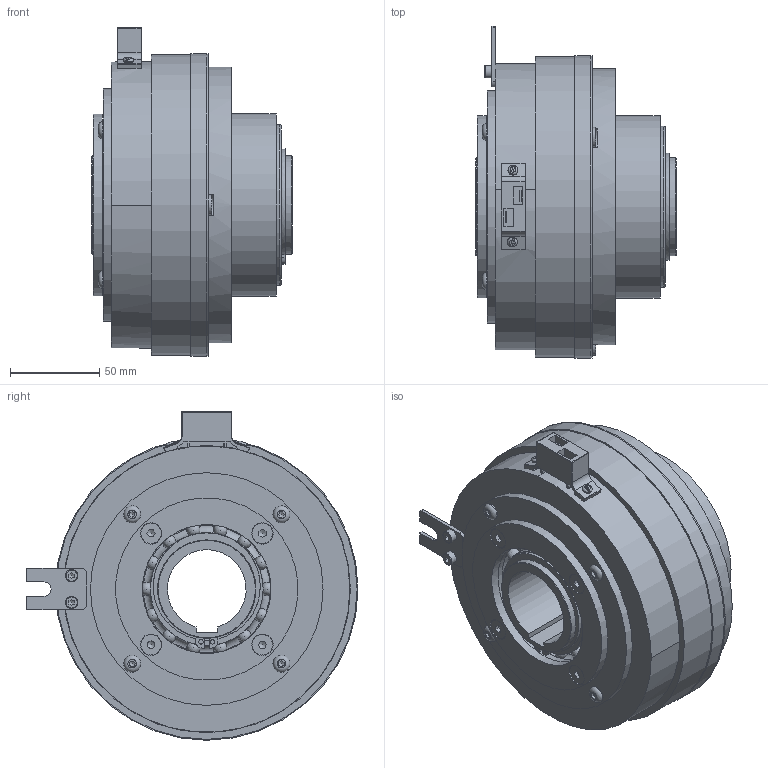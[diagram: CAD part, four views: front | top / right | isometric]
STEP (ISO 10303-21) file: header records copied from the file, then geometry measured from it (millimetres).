
FILE_DESCRIPTION(/* description */ (''),/* implementation_level */ '2;1');
FILE_NAME(/* name */ 'X:\INVENTOR\DISEGNI\08_Freni_Friz_Elettmag_Monodisco\08_26 EMSL_DF\EMSL_DF STEP\08_26_170_41 EMSL170_DF-R_S@STEP.stp',/* time_stamp */ '2018-04-24T09:48:59+02:00',/* author */ ('stefano'),/* organization */ (''),/* preprocessor_version */ 'ST-DEVELOPER v17',/* originating_system */ 'Autodesk Inventor 2018',/* authorisation */ '');
FILE_SCHEMA (('AUTOMOTIVE_DESIGN { 1 0 10303 214 3 1 1 }'));
Length unit declared in the file: millimetre
Products named in the file (1): 08_26_170_41 EMSL170_DF-R - Spina_Substitute_1
Bounding box: 112 x 185.5 x 183.59 mm (x, y, z)
Volume: 1123180.9 mm3; surface area: 329458.9 mm2
Topology: 1 solids, 1 shells, 887 faces, 2823 edges, 1872 vertices
Faces by surface type: plane 305, cylinder 302, torus 154, sphere 70, cone 56
Full cylindrical faces by diameter (mm): 1.5 x3, 2.5 x4, 3.5 x2, 4.917 x7, 5.6 x2, 6 x12, 6.5 x4, 6.647 x3, 7 x2, 9.5 x4, 10 x3, 10.5 x4, 11 x6, 11.34 x4, 12 x7, 52 x2, 55 x5, 63 x5, 66 x1, 66.2 x4, 72 x6, 78.8 x4, 80 x2, 90 x4, 92 x1, 99.5 x1, 100 x1, 102 x2, 105 x2, 110 x1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
Entity records: 36893 total; most frequent: CARTESIAN_POINT 11416, ORIENTED_EDGE 5360, DIRECTION 5222, EDGE_CURVE 2680, AXIS2_PLACEMENT_3D 2214, VERTEX_POINT 1872, CIRCLE 1326, EDGE_LOOP 1146
